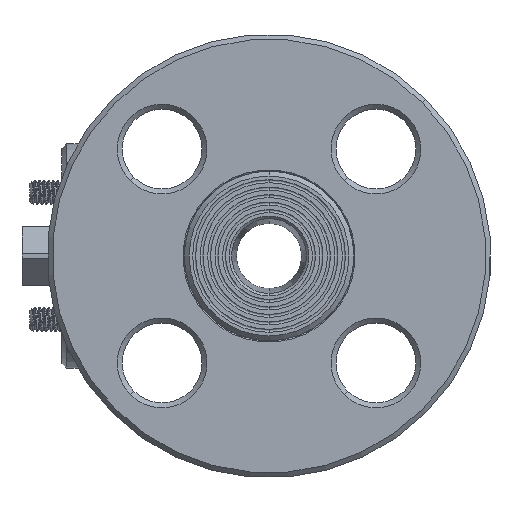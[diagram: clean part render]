
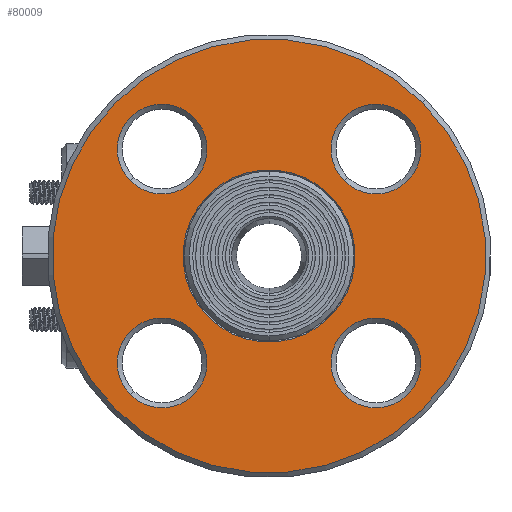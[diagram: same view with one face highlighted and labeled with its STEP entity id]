
A CAD part, left-side view. The second image highlights one B-rep face of the part: STEP entity #80009.
In plain terms, the highlighted planar face has unit normal (-1, 0, 0).
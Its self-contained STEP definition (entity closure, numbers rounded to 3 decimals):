
#37131=CARTESIAN_POINT('',(-55.5,0.,0.));
#37132=DIRECTION('',(-1.,0.,0.));
#37133=DIRECTION('',(0.,0.707,-0.707));
#37134=AXIS2_PLACEMENT_3D('',#37131,#37132,#37133);
#37161=CARTESIAN_POINT('',(-55.5,0.,0.));
#37162=DIRECTION('',(1.,0.,0.));
#37163=DIRECTION('',(0.,0.707,-0.707));
#37164=AXIS2_PLACEMENT_3D('',#37161,#37162,#37163);
#37177=CARTESIAN_POINT('',(-55.5,0.,0.));
#37178=DIRECTION('',(1.,0.,0.));
#37179=DIRECTION('',(0.,0.707,-0.707));
#37180=AXIS2_PLACEMENT_3D('',#37177,#37178,#37179);
#37238=CARTESIAN_POINT('',(-55.5,0.,0.));
#37239=DIRECTION('',(-1.,0.,0.));
#37240=DIRECTION('',(0.,0.707,-0.707));
#37241=AXIS2_PLACEMENT_3D('',#37238,#37239,#37240);
#39569=CARTESIAN_POINT('',(-55.5,21.425,-21.425));
#39570=DIRECTION('',(1.,0.,0.));
#39571=DIRECTION('',(0.,0.707,-0.707));
#39572=AXIS2_PLACEMENT_3D('',#39569,#39570,#39571);
#39599=CARTESIAN_POINT('',(-55.5,21.425,-21.425));
#39600=DIRECTION('',(1.,0.,0.));
#39601=DIRECTION('',(0.,-0.707,0.707));
#39602=AXIS2_PLACEMENT_3D('',#39599,#39600,#39601);
#39675=CARTESIAN_POINT('',(-55.5,21.425,21.425));
#39676=DIRECTION('',(1.,0.,0.));
#39677=DIRECTION('',(0.,0.707,-0.707));
#39678=AXIS2_PLACEMENT_3D('',#39675,#39676,#39677);
#39691=CARTESIAN_POINT('',(-55.5,21.425,21.425));
#39692=DIRECTION('',(1.,0.,0.));
#39693=DIRECTION('',(0.,-0.707,0.707));
#39694=AXIS2_PLACEMENT_3D('',#39691,#39692,#39693);
#39781=CARTESIAN_POINT('',(-55.5,-21.425,21.425));
#39782=DIRECTION('',(1.,0.,0.));
#39783=DIRECTION('',(0.,0.707,-0.707));
#39784=AXIS2_PLACEMENT_3D('',#39781,#39782,#39783);
#39811=CARTESIAN_POINT('',(-55.5,-21.425,21.425));
#39812=DIRECTION('',(1.,0.,0.));
#39813=DIRECTION('',(0.,-0.707,0.707));
#39814=AXIS2_PLACEMENT_3D('',#39811,#39812,#39813);
#39887=CARTESIAN_POINT('',(-55.5,-21.425,-21.425));
#39888=DIRECTION('',(1.,0.,0.));
#39889=DIRECTION('',(0.,0.707,-0.707));
#39890=AXIS2_PLACEMENT_3D('',#39887,#39888,#39889);
#39917=CARTESIAN_POINT('',(-55.5,-21.425,-21.425));
#39918=DIRECTION('',(1.,0.,0.));
#39919=DIRECTION('',(0.,-0.707,0.707));
#39920=AXIS2_PLACEMENT_3D('',#39917,#39918,#39919);
#52154=CARTESIAN_POINT('',(-55.5,12.198,-12.198));
#52155=CARTESIAN_POINT('',(-55.5,-12.198,12.198));
#52156=VERTEX_POINT('',#52154);
#52157=VERTEX_POINT('',#52155);
#52158=CARTESIAN_POINT('',(-55.5,30.724,-30.724));
#52159=CARTESIAN_POINT('',(-55.5,-30.724,30.724));
#52160=VERTEX_POINT('',#52158);
#52161=VERTEX_POINT('',#52159);
#52210=CARTESIAN_POINT('',(-55.5,-27.789,27.789));
#52211=CARTESIAN_POINT('',(-55.5,-15.061,15.061));
#52212=VERTEX_POINT('',#52210);
#52213=VERTEX_POINT('',#52211);
#52218=CARTESIAN_POINT('',(-55.5,-27.789,-15.061));
#52219=CARTESIAN_POINT('',(-55.5,-15.061,-27.789));
#52220=VERTEX_POINT('',#52218);
#52221=VERTEX_POINT('',#52219);
#52226=CARTESIAN_POINT('',(-55.5,15.061,-15.061));
#52227=CARTESIAN_POINT('',(-55.5,27.789,-27.789));
#52228=VERTEX_POINT('',#52226);
#52229=VERTEX_POINT('',#52227);
#52234=CARTESIAN_POINT('',(-55.5,27.789,15.061));
#52235=CARTESIAN_POINT('',(-55.5,15.061,27.789));
#52236=VERTEX_POINT('',#52234);
#52237=VERTEX_POINT('',#52235);
#79969=CARTESIAN_POINT('',(-55.5,0.,0.));
#79970=DIRECTION('',(-1.,0.,0.));
#79971=DIRECTION('',(0.,0.707,-0.707));
#79972=AXIS2_PLACEMENT_3D('',#79969,#79970,#79971);
#79973=PLANE('',#79972);
#79974=ORIENTED_EDGE('',*,*,#79959,.F.);
#79976=ORIENTED_EDGE('',*,*,#79975,.T.);
#79977=EDGE_LOOP('',(#79974,#79976));
#79978=FACE_OUTER_BOUND('',#79977,.F.);
#79980=ORIENTED_EDGE('',*,*,#79979,.F.);
#79982=ORIENTED_EDGE('',*,*,#79981,.T.);
#79983=EDGE_LOOP('',(#79980,#79982));
#79984=FACE_BOUND('',#79983,.F.);
#79986=ORIENTED_EDGE('',*,*,#79985,.F.);
#79988=ORIENTED_EDGE('',*,*,#79987,.F.);
#79989=EDGE_LOOP('',(#79986,#79988));
#79990=FACE_BOUND('',#79989,.F.);
#79992=ORIENTED_EDGE('',*,*,#79991,.F.);
#79994=ORIENTED_EDGE('',*,*,#79993,.F.);
#79995=EDGE_LOOP('',(#79992,#79994));
#79996=FACE_BOUND('',#79995,.F.);
#79998=ORIENTED_EDGE('',*,*,#79997,.F.);
#80000=ORIENTED_EDGE('',*,*,#79999,.F.);
#80001=EDGE_LOOP('',(#79998,#80000));
#80002=FACE_BOUND('',#80001,.F.);
#80004=ORIENTED_EDGE('',*,*,#80003,.F.);
#80006=ORIENTED_EDGE('',*,*,#80005,.F.);
#80007=EDGE_LOOP('',(#80004,#80006));
#80008=FACE_BOUND('',#80007,.F.);
#80009=ADVANCED_FACE('',(#79978,#79984,#79990,#79996,#80002,#80008),#79973,.T.);
#37135=CIRCLE('',#37134,43.45);
#37165=CIRCLE('',#37164,43.45);
#37181=CIRCLE('',#37180,17.25);
#37242=CIRCLE('',#37241,17.25);
#39573=CIRCLE('',#39572,9.);
#39603=CIRCLE('',#39602,9.);
#39679=CIRCLE('',#39678,9.);
#39695=CIRCLE('',#39694,9.);
#39785=CIRCLE('',#39784,9.);
#39815=CIRCLE('',#39814,9.);
#39891=CIRCLE('',#39890,9.);
#39921=CIRCLE('',#39920,9.);
#79959=EDGE_CURVE('',#52160,#52161,#37135,.T.);
#79975=EDGE_CURVE('',#52160,#52161,#37165,.T.);
#79979=EDGE_CURVE('',#52156,#52157,#37181,.T.);
#79981=EDGE_CURVE('',#52156,#52157,#37242,.T.);
#79985=EDGE_CURVE('',#52229,#52228,#39573,.T.);
#79987=EDGE_CURVE('',#52228,#52229,#39603,.T.);
#79991=EDGE_CURVE('',#52236,#52237,#39679,.T.);
#79993=EDGE_CURVE('',#52237,#52236,#39695,.T.);
#79997=EDGE_CURVE('',#52213,#52212,#39785,.T.);
#79999=EDGE_CURVE('',#52212,#52213,#39815,.T.);
#80003=EDGE_CURVE('',#52221,#52220,#39891,.T.);
#80005=EDGE_CURVE('',#52220,#52221,#39921,.T.);
